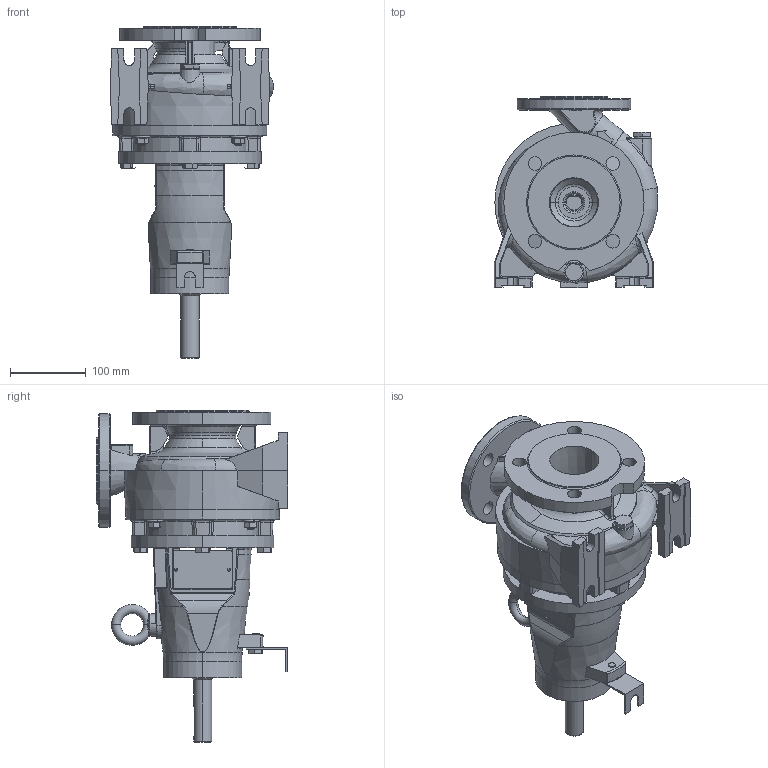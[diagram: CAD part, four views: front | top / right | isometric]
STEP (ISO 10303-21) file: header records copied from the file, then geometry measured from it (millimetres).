
FILE_DESCRIPTION (( 'STEP AP203' ), '1' );
FILE_NAME ('BSN 40 125.STEP', '2020-03-05T13:35:09', ( '' ), ( '' ), 'SwSTEP 2.0', 'SolidWorks 2019', '' );
FILE_SCHEMA (( 'CONFIG_CONTROL_DESIGN' ));
Length unit declared in the file: millimetre
Products named in the file (2): BSN 40 125
Bounding box: 215.46 x 252 x 438 mm (x, y, z)
Surface area: 475799.9 mm2 (no closed solid volume)
Topology: 0 solids, 34 shells, 772 faces, 2357 edges, 1582 vertices
Faces by surface type: plane 242, cylinder 184, bspline 163, cone 95, torus 71, sphere 17
Entity records: 42554 total; most frequent: CARTESIAN_POINT 23363, ORIENTED_EDGE 4013, DIRECTION 3498, EDGE_CURVE 2344, VERTEX_POINT 1582, AXIS2_PLACEMENT_3D 1343, EDGE_LOOP 860, LINE 812
